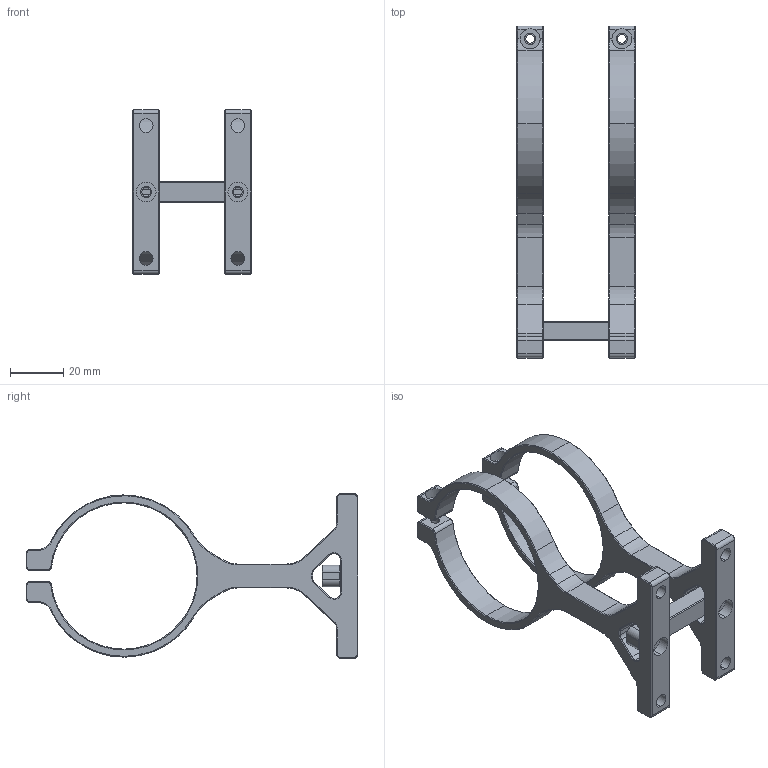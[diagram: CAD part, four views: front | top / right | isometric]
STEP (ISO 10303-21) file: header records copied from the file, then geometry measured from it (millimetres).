
FILE_DESCRIPTION (( 'STEP AP214' ), '1' );
FILE_NAME ('SW12,DW15,SW17假蚾盓殤.STEP', '2026-03-24T02:30:31', ( '' ), ( '' ), 'SwSTEP 2.0', 'SolidWorks 2022', '' );
FILE_SCHEMA (( 'AUTOMOTIVE_DESIGN' ));
Length unit declared in the file: millimetre
Products named in the file (3): DW15安装座; DW15安装支架; SW12,DW15,SW17安装支架
Assembly tree (3 placements, depth 2):
  SW12,DW15,SW17安装支架
    DW15安装支架
    DW15安装座  x2
Bounding box: 44.5 x 124.81 x 62 mm (x, y, z)
Volume: 35419.2 mm3; surface area: 21432.4 mm2
Topology: 3 solids, 3 shells, 380 faces, 902 edges, 528 vertices
Faces by surface type: plane 150, cone 132, cylinder 98
Entity records: 6133 total; most frequent: CARTESIAN_POINT 1185, DIRECTION 1077, ORIENTED_EDGE 970, EDGE_CURVE 485, AXIS2_PLACEMENT_3D 388, VECTOR 301, LINE 301, VERTEX_POINT 284
